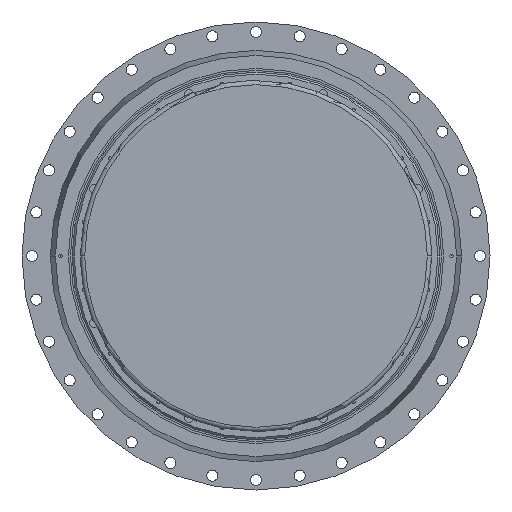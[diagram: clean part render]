
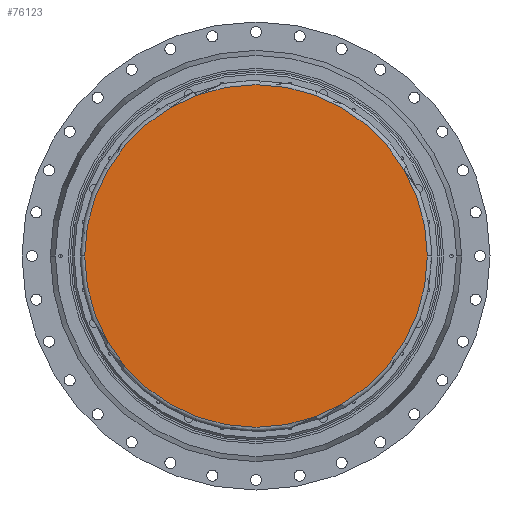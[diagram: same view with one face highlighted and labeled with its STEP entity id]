
A CAD part, front view. The second image highlights one B-rep face of the part: STEP entity #76123.
In plain terms, the highlighted planar face has unit normal (0, -1, 0).
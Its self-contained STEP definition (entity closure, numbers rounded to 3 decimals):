
#14388 = AXIS2_PLACEMENT_3D ( 'NONE', #187868, #89786, #204341 ) ;
#15389 = FACE_OUTER_BOUND ( 'NONE', #110230, .T. ) ;
#23528 = CARTESIAN_POINT ( 'NONE',  ( 0., 0., 0. ) ) ;
#25417 = ORIENTED_EDGE ( 'NONE', *, *, #52263, .T. ) ;
#39921 = DIRECTION ( 'NONE',  ( 0., 0., -1. ) ) ;
#52263 = EDGE_CURVE ( 'NONE', #95084, #129631, #191800, .T. ) ;
#60932 = CARTESIAN_POINT ( 'NONE',  ( 0., 0., 0. ) ) ;
#76123 = ADVANCED_FACE ( 'NONE', ( #15389 ), #203650, .T. ) ;
#77378 = DIRECTION ( 'NONE',  ( 0., 0., -1. ) ) ;
#89786 = DIRECTION ( 'NONE',  ( 0., -1., 0. ) ) ;
#95084 = VERTEX_POINT ( 'NONE', #147639 ) ;
#104007 = CIRCLE ( 'NONE', #208574, 512.5 ) ;
#110230 = EDGE_LOOP ( 'NONE', ( #25417, #178780 ) ) ;
#128392 = AXIS2_PLACEMENT_3D ( 'NONE', #60932, #175402, #77378 ) ;
#129631 = VERTEX_POINT ( 'NONE', #173691 ) ;
#137902 = DIRECTION ( 'NONE',  ( 0., -1., 0. ) ) ;
#147639 = CARTESIAN_POINT ( 'NONE',  ( -512.5, 0., 0. ) ) ;
#154271 = EDGE_CURVE ( 'NONE', #129631, #95084, #104007, .T. ) ;
#173691 = CARTESIAN_POINT ( 'NONE',  ( 512.5, 0., 0. ) ) ;
#175402 = DIRECTION ( 'NONE',  ( 0., -1., 0. ) ) ;
#178780 = ORIENTED_EDGE ( 'NONE', *, *, #154271, .T. ) ;
#187868 = CARTESIAN_POINT ( 'NONE',  ( 0., 0., 0. ) ) ;
#191800 = CIRCLE ( 'NONE', #128392, 512.5 ) ;
#203650 = PLANE ( 'NONE',  #14388 ) ;
#204341 = DIRECTION ( 'NONE',  ( 0., 0., -1. ) ) ;
#208574 = AXIS2_PLACEMENT_3D ( 'NONE', #23528, #137902, #39921 ) ;
